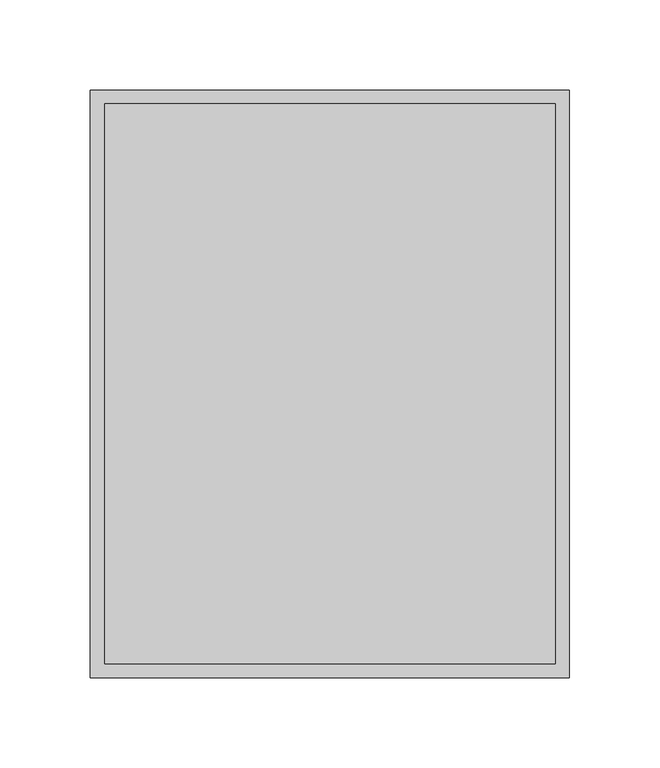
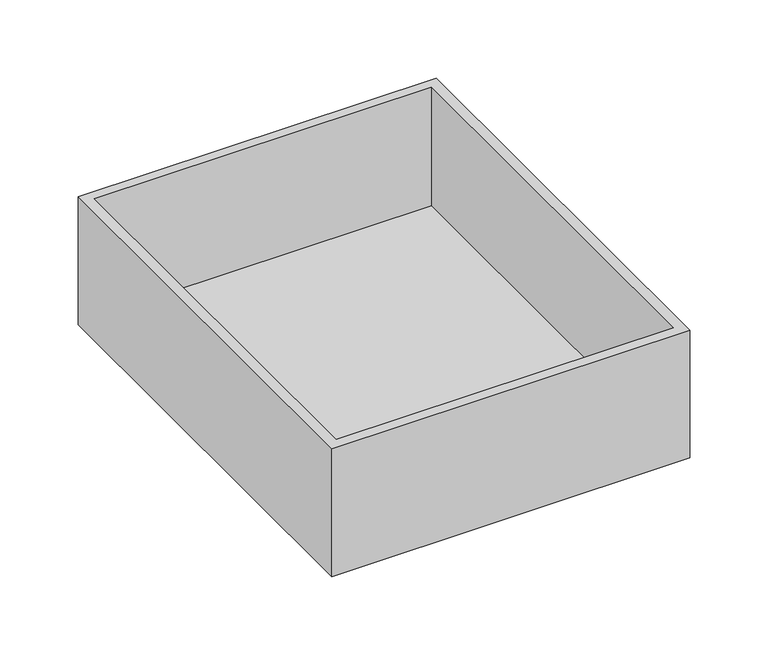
"""IFC4 building model written with IfcOpenShell, lengths in millimetres: proxy geometry, Modelos genéricos 108 : Modelos genéricos 29."""

from ifc_helpers import new_model, si_unit, origin, place, context, project, spatial, faceted_brep, source, transform, mapped, element, save


def generic_models_494bf74d(model_context):
    return source(origin(), model_context, "Body", "Brep", [
        faceted_brep([(8733.4435236, -3559.1877015, 1086.3966943), (8733.4435236, -3884.1877015, 1086.3966943), (8998.4435236, -3884.1877015, 1086.3966943), (8998.4435236, -3559.1877015, 1086.3966943), (8741.3046853, -3566.5305741, 1086.3966943), (8990.6487652, -3566.5305741, 1086.3966943), (8990.6487652, -3876.5305741, 1086.3966943), (8741.3046853, -3876.5305741, 1086.3966943), (8733.4435236, -3559.1877015, 986.3966943), (8998.4435236, -3559.1877015, 986.3966943), (8998.4435236, -3884.1877015, 986.3966943), (8733.4435236, -3884.1877015, 986.3966943), (8741.3046853, -3566.5305741, 993.8583576), (8990.6487652, -3566.5305741, 993.8583576), (8990.6487652, -3876.5305741, 993.8583576), (8741.3046853, -3876.5305741, 993.8583576)], [[[0, 1, 2, 3], [4, 5, 6, 7]], [[8, 9, 10, 11]], [[0, 3, 9, 8]], [[3, 2, 10, 9]], [[2, 1, 11, 10]], [[1, 0, 8, 11]], [[12, 13, 5, 4]], [[13, 14, 6, 5]], [[14, 15, 7, 6]], [[15, 12, 4, 7]], [[12, 15, 14, 13]]]),
    ])


if __name__ == "__main__":
    model = new_model("IFC4")
    model_context = context("Model", 3, world=origin())
    ifc_project = project(units=[si_unit("LENGTHUNIT", "METRE", prefix="MILLI")], contexts=[model_context])
    site = spatial("IfcSite", under=ifc_project)
    building = spatial("IfcBuilding", under=site)
    placement = place(None, origin())
    generic_models_shape = generic_models_494bf74d(model_context)
    element("IfcBuildingElementProxy", 1, Name="Modelos genéricos 108 : Modelos genéricos 29", ObjectType="Modelos genéricos 108 : Modelos genéricos 29", at=placement, inside=building, context=model_context, shape_type="MappedRepresentation", body=[
        mapped(generic_models_shape, transform((0.0, 0.0, 0.0), x_axis=(1.0, 0.0, 0.0), y_axis=(0.0, 1.0, 0.0), z_axis=(0.0, 0.0, 1.0))),
    ])
    save(model, "model.ifc")
